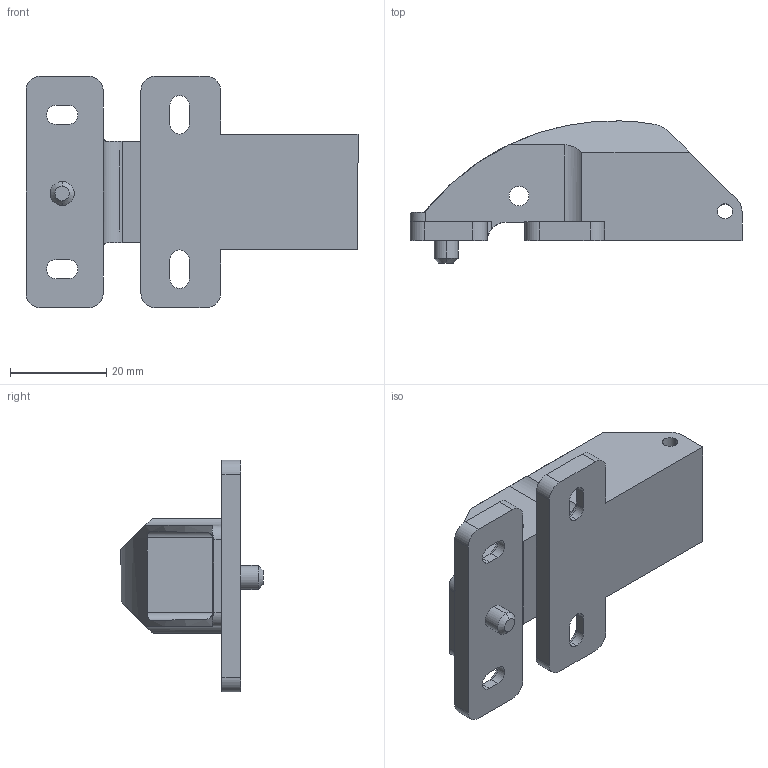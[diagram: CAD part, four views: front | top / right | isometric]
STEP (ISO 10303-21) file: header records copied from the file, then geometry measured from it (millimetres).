
FILE_DESCRIPTION (( 'STEP AP203' ), '1' );
FILE_NAME ('Verbindungsscharnier_Kinvaro_F-20_D2859025125~0.step', '2012-05-04T07:18:12', ( 'admin' ), ( 'Hewlett-Packard Company' ), 'SwSTEP 2.0', 'SolidWorks 2011', '' );
FILE_SCHEMA (( 'CONFIG_CONTROL_DESIGN' ));
Length unit declared in the file: millimetre
Products named in the file (1): Verbindungsscharnier_Kinvaro_F-20_D2859025125~0
Bounding box: 68.84 x 29.47 x 48 mm (x, y, z)
Volume: 26531.9 mm3; surface area: 9405.1 mm2
Topology: 1 solids, 1 shells, 107 faces, 299 edges, 197 vertices
Faces by surface type: plane 55, cylinder 50, cone 2
Entity records: 3621 total; most frequent: CARTESIAN_POINT 720, ORIENTED_EDGE 598, DIRECTION 591, EDGE_CURVE 299, AXIS2_PLACEMENT_3D 205, VERTEX_POINT 197, LINE 181, VECTOR 181
